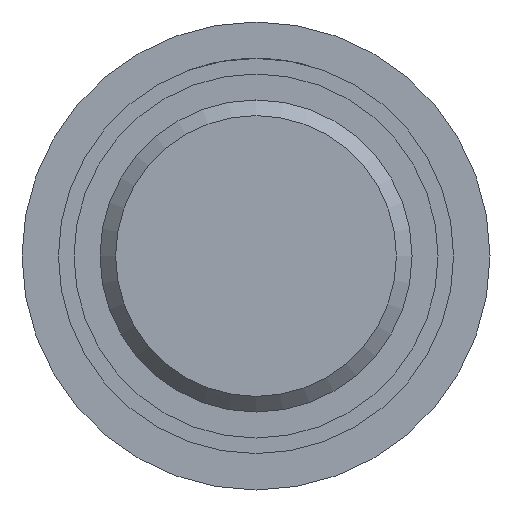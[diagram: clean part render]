
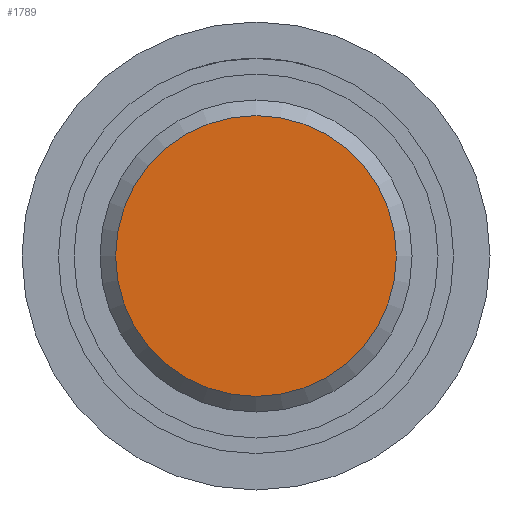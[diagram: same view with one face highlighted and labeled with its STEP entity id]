
A CAD part, front view. The second image highlights one B-rep face of the part: STEP entity #1789.
In plain terms, the highlighted planar face has unit normal (0, -1, 0).
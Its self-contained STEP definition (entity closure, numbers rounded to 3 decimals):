
#1725 = CONICAL_SURFACE('',#1726,15.,0.785);
#1726 = AXIS2_PLACEMENT_3D('',#1727,#1728,#1729);
#1727 = CARTESIAN_POINT('',(0.,-88.5,0.));
#1728 = DIRECTION('',(0.,1.,0.));
#1729 = DIRECTION('',(1.,0.,-0.));
#1741 = VERTEX_POINT('',#1742);
#1742 = CARTESIAN_POINT('',(13.5,-90.,0.));
#1763 = EDGE_CURVE('',#1741,#1741,#1764,.T.);
#1764 = SURFACE_CURVE('',#1765,(#1770,#1777),.PCURVE_S1.);
#1765 = CIRCLE('',#1766,13.5);
#1766 = AXIS2_PLACEMENT_3D('',#1767,#1768,#1769);
#1767 = CARTESIAN_POINT('',(0.,-90.,0.));
#1768 = DIRECTION('',(0.,1.,0.));
#1769 = DIRECTION('',(1.,0.,-0.));
#1770 = PCURVE('',#1725,#1771);
#1771 = DEFINITIONAL_REPRESENTATION('',(#1772),#1776);
#1772 = LINE('',#1773,#1774);
#1773 = CARTESIAN_POINT('',(0.,-1.5));
#1774 = VECTOR('',#1775,1.);
#1775 = DIRECTION('',(1.,-0.));
#1776 = ( GEOMETRIC_REPRESENTATION_CONTEXT(2) 
PARAMETRIC_REPRESENTATION_CONTEXT() REPRESENTATION_CONTEXT('2D SPACE',''
  ) );
#1777 = PCURVE('',#1778,#1783);
#1778 = PLANE('',#1779);
#1779 = AXIS2_PLACEMENT_3D('',#1780,#1781,#1782);
#1780 = CARTESIAN_POINT('',(0.,-90.,0.));
#1781 = DIRECTION('',(0.,1.,0.));
#1782 = DIRECTION('',(1.,0.,-0.));
#1783 = DEFINITIONAL_REPRESENTATION('',(#1784),#1788);
#1784 = CIRCLE('',#1785,13.5);
#1785 = AXIS2_PLACEMENT_2D('',#1786,#1787);
#1786 = CARTESIAN_POINT('',(0.,0.));
#1787 = DIRECTION('',(1.,0.));
#1788 = ( GEOMETRIC_REPRESENTATION_CONTEXT(2) 
PARAMETRIC_REPRESENTATION_CONTEXT() REPRESENTATION_CONTEXT('2D SPACE',''
  ) );
#1789 = ADVANCED_FACE('',(#1790),#1778,.F.);
#1790 = FACE_BOUND('',#1791,.F.);
#1791 = EDGE_LOOP('',(#1792));
#1792 = ORIENTED_EDGE('',*,*,#1763,.T.);
